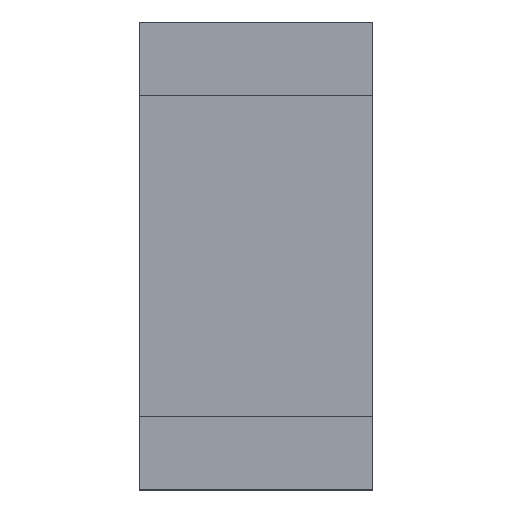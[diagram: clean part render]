
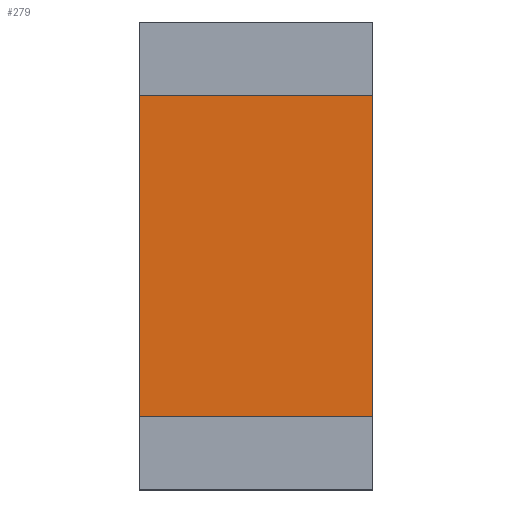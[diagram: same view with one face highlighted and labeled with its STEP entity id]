
A CAD part, top view. The second image highlights one B-rep face of the part: STEP entity #279.
In plain terms, the highlighted planar face has unit normal (0, 0, 1).
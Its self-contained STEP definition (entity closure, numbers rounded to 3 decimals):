
#33=FACE_OUTER_BOUND('',#47,.T.);
#47=EDGE_LOOP('',(#217,#218,#219,#220));
#56=LINE('',#382,#92);
#65=LINE('',#402,#101);
#80=LINE('',#432,#116);
#81=LINE('',#433,#117);
#92=VECTOR('',#314,10.);
#101=VECTOR('',#329,10.);
#116=VECTOR('',#354,10.);
#117=VECTOR('',#355,10.);
#126=VERTEX_POINT('',#376);
#128=VERTEX_POINT('',#380);
#135=VERTEX_POINT('',#399);
#136=VERTEX_POINT('',#401);
#152=EDGE_CURVE('',#126,#128,#56,.T.);
#161=EDGE_CURVE('',#136,#135,#65,.T.);
#176=EDGE_CURVE('',#128,#136,#80,.T.);
#177=EDGE_CURVE('',#135,#126,#81,.T.);
#217=ORIENTED_EDGE('',*,*,#152,.T.);
#218=ORIENTED_EDGE('',*,*,#176,.T.);
#219=ORIENTED_EDGE('',*,*,#161,.T.);
#220=ORIENTED_EDGE('',*,*,#177,.T.);
#265=PLANE('',#301);
#279=ADVANCED_FACE('',(#33),#265,.T.);
#301=AXIS2_PLACEMENT_3D('',#431,#352,#353);
#314=DIRECTION('',(1.,0.,0.));
#329=DIRECTION('',(-1.,0.,0.));
#352=DIRECTION('center_axis',(0.,0.,1.));
#353=DIRECTION('ref_axis',(1.,0.,0.));
#354=DIRECTION('',(0.,1.,0.));
#355=DIRECTION('',(0.,-1.,0.));
#376=CARTESIAN_POINT('',(0.,0.5,0.55));
#380=CARTESIAN_POINT('',(1.6,0.5,0.55));
#382=CARTESIAN_POINT('',(1.2,0.5,0.55));
#399=CARTESIAN_POINT('',(0.,2.7,0.55));
#401=CARTESIAN_POINT('',(1.6,2.7,0.55));
#402=CARTESIAN_POINT('',(1.2,2.7,0.55));
#431=CARTESIAN_POINT('Origin',(0.8,1.6,0.55));
#432=CARTESIAN_POINT('',(1.6,0.,0.55));
#433=CARTESIAN_POINT('',(0.,3.2,0.55));
